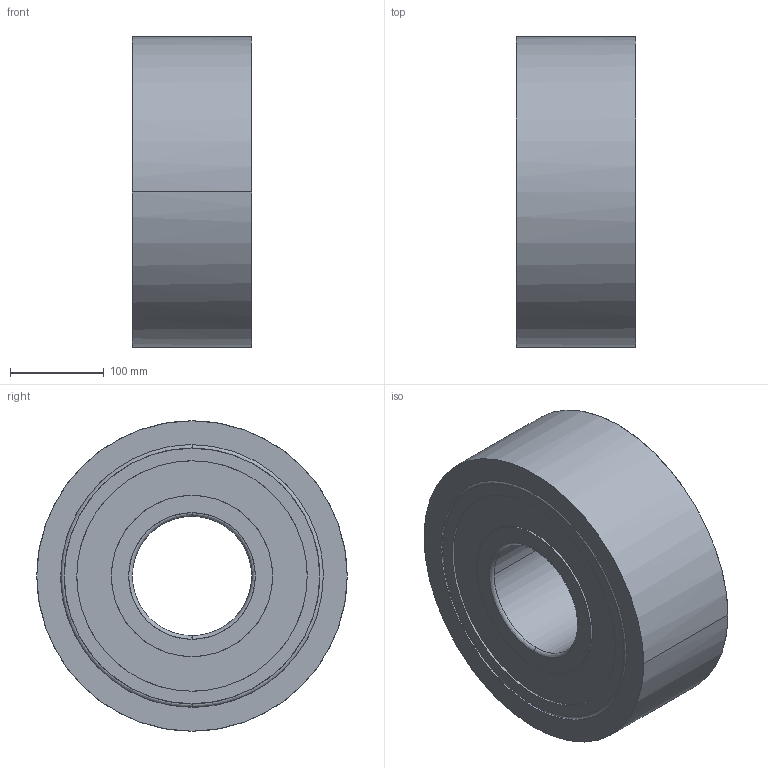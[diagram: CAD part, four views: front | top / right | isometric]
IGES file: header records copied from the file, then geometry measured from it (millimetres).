
Global section: native system: Kubotek KeyCreator; preprocessor: KCM Version 1.1.1442.0; author: KeyCreator User; organization: Self; date: 20170714.085105; units: inch
Bounding box: 127 x 330.2 x 330.2 mm (x, y, z)
Surface area: 344305.6 mm2 (no closed solid volume)
Topology: 0 solids, 0 shells, 32 faces, 208 edges, 208 vertices
Faces by surface type: bspline 32
